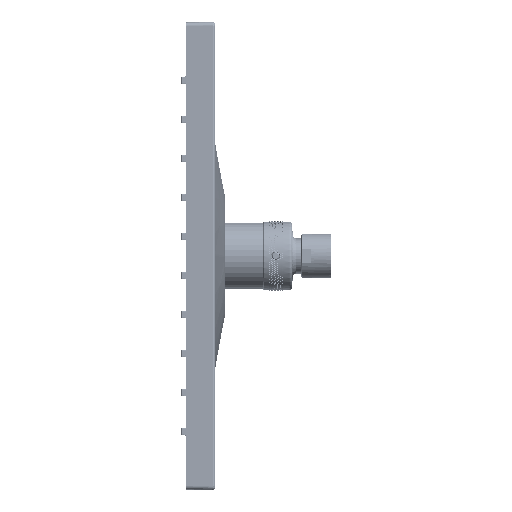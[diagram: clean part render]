
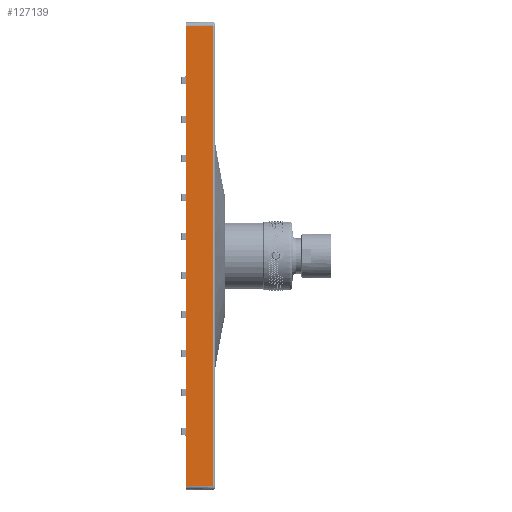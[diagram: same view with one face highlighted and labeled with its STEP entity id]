
A CAD part, left-side view. The second image highlights one B-rep face of the part: STEP entity #127139.
In plain terms, the highlighted planar face has unit normal (-1, 0.018, 0).
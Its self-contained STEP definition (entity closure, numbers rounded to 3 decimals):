
#82277=CARTESIAN_POINT('',(-179.982,-11.183,
-117.983));
#82366=DIRECTION('',(0.,0.,1.));
#82367=VECTOR('',#82366,235.965);
#82368=CARTESIAN_POINT('',(-179.982,-11.183,
-117.983));
#82369=LINE('',#82368,#82367);
#82370=DIRECTION('',(0.017,1.,0.017));
#82371=VECTOR('',#82370,13.687);
#82372=CARTESIAN_POINT('',(-179.982,-11.183,
-117.983));
#82373=LINE('',#82372,#82371);
#82374=DIRECTION('',(-0.017,-1.,0.017));
#82375=VECTOR('',#82374,13.687);
#82376=CARTESIAN_POINT('',(-179.743,2.5,117.744));
#82377=LINE('',#82376,#82375);
#82402=CARTESIAN_POINT('',(-179.743,2.5,-117.744));
#82442=CARTESIAN_POINT('',(-179.743,2.5,117.744));
#82444=DIRECTION('',(0.,0.,-1.));
#82445=VECTOR('',#82444,235.487);
#82446=CARTESIAN_POINT('',(-179.743,2.5,117.744));
#82447=LINE('',#82446,#82445);
#113585=VERTEX_POINT('',#82402);
#113595=VERTEX_POINT('',#82442);
#118557=VERTEX_POINT('',#82277);
#118585=CARTESIAN_POINT('',(-179.982,-11.183,
117.983));
#118586=VERTEX_POINT('',#118585);
#127125=CARTESIAN_POINT('',(-180.,-12.2,-125.711));
#127126=DIRECTION('',(-1.,0.017,0.));
#127127=DIRECTION('',(0.,0.,-1.));
#127128=AXIS2_PLACEMENT_3D('',#127125,#127126,#127127);
#127129=PLANE('',#127128);
#127130=ORIENTED_EDGE('',*,*,#127119,.F.);
#127132=ORIENTED_EDGE('',*,*,#127131,.T.);
#127134=ORIENTED_EDGE('',*,*,#127133,.F.);
#127136=ORIENTED_EDGE('',*,*,#127135,.T.);
#127137=EDGE_LOOP('',(#127130,#127132,#127134,#127136));
#127138=FACE_OUTER_BOUND('',#127137,.F.);
#127139=ADVANCED_FACE('',(#127138),#127129,.T.);
#127119=EDGE_CURVE('',#118557,#118586,#82369,.T.);
#127131=EDGE_CURVE('',#118557,#113585,#82373,.T.);
#127133=EDGE_CURVE('',#113595,#113585,#82447,.T.);
#127135=EDGE_CURVE('',#113595,#118586,#82377,.T.);
